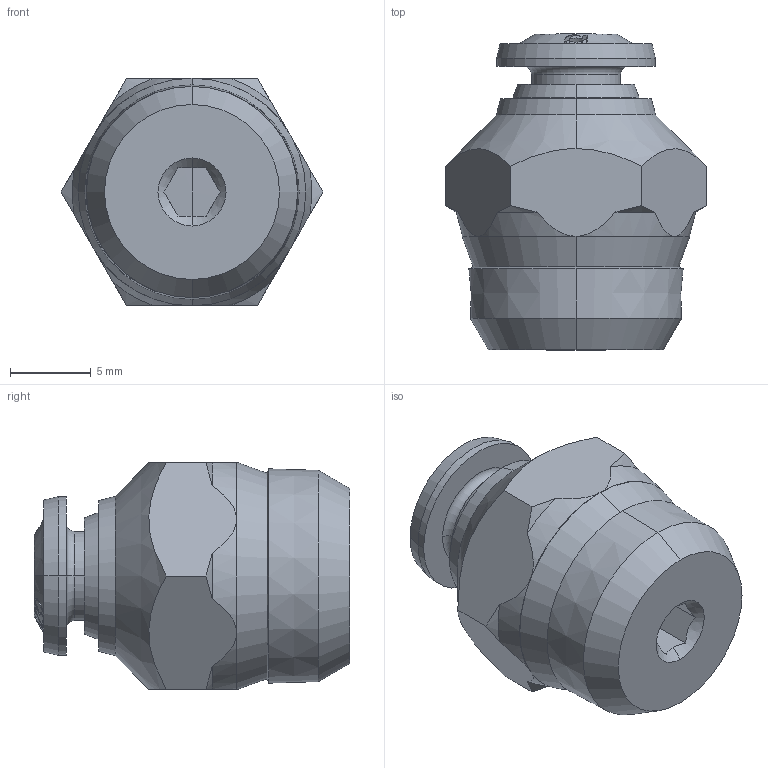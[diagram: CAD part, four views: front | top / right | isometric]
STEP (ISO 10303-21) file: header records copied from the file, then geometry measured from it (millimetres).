
FILE_DESCRIPTION (( 'STEP AP214' ), '1' );
FILE_NAME ('5500000013.step', '2012-10-02T17:30:49', ( '' ), ( '' ), 'SwSTEP 2.0', 'SolidWorks 2012', '' );
FILE_SCHEMA (( 'AUTOMOTIVE_DESIGN' ));
Length unit declared in the file: millimetre
Products named in the file (1): 5500000013
Bounding box: 16.17 x 19.5 x 14.06 mm (x, y, z)
Volume: 2152.4 mm3; surface area: 1314.7 mm2
Topology: 1 solids, 2 shells, 215 faces, 538 edges, 347 vertices
Faces by surface type: bspline 116, cone 56, plane 23, cylinder 16, torus 4
Entity records: 13221 total; most frequent: CARTESIAN_POINT 6755, ORIENTED_EDGE 1072, EDGE_CURVE 536, DIRECTION 422, B_SPLINE_CURVE_WITH_KNOTS 396, VERTEX_POINT 347, EDGE_LOOP 239, UNCERTAINTY_MEASURE_WITH_UNIT 218
